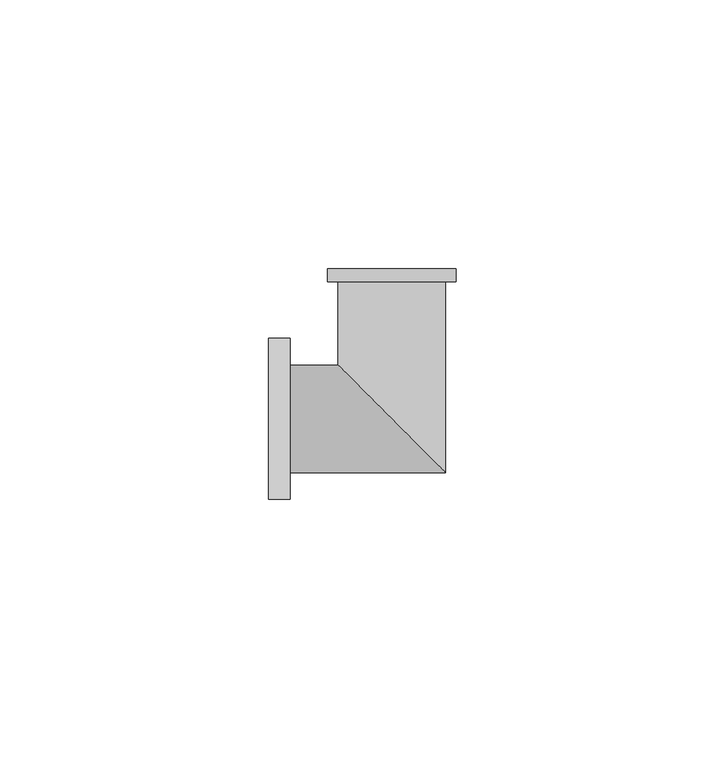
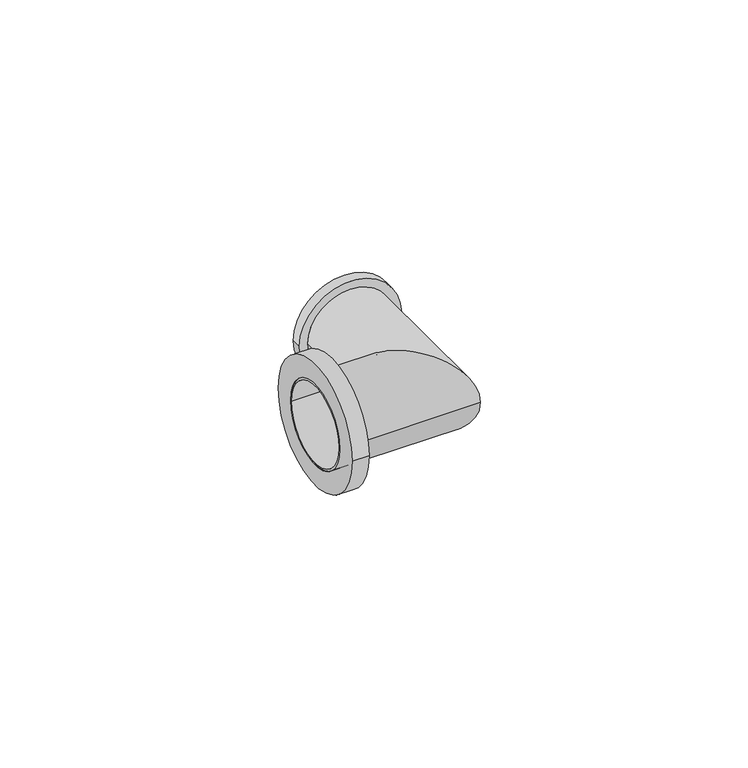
"""IFC4 building model written with IfcOpenShell, lengths in millimetres: pipe fitting geometry, БИР ПЕКС_НПР_Угольник_Резьба_Внутренняя : Угольник с внутренней резьбой."""

from ifc_helpers import new_model, si_unit, point, frame, origin, origin_2d, place, context, project, spatial, polyline, circle_curve, ellipse_curve, trimmed, segment, composite_curve, outline, extrude, source, transform, mapped, element, save
from ifc_brep_helpers import plane_surface, cylinder_surface, revolved_surface, advanced_brep


def pipe_fitting_5774e762(model_context):
    return source(origin(), model_context, "Body", "SolidModel", [
        extrude(outline(composite_curve([segment(trimmed(circle_curve(origin_2d(), 15.0), [point((-15.0, 0.0))], [point((15.0, 0.0))], False, "CARTESIAN"), True, "CONTINUOUS"), segment(trimmed(circle_curve(origin_2d(), 15.0), [point((15.0, 0.0))], [point((-15.0, 0.0))], False, "CARTESIAN"), True, "CONTINUOUS")], self_intersect=False), holes=[composite_curve([segment(trimmed(circle_curve(origin_2d(), 10.0), [point((-10.0, 0.0))], [point((10.0, 0.0))], True, "CARTESIAN"), True, "CONTINUOUS"), segment(trimmed(circle_curve(origin_2d(), 10.0), [point((10.0, 0.0))], [point((-10.0, 0.0))], True, "CARTESIAN"), True, "CONTINUOUS")], self_intersect=False)]), frame((-23.0, 0.0, 0.0), z_axis=(1.0, 0.0, 0.0), x_axis=(0.0, 1.0, 0.0)), (0.0, 0.0, 1.0), 4.0),
        advanced_brep(
        [(-23.0, -10.0, 0.0), (-23.0, 10.0, 0.0), (-23.0, -9.5, 0.0), (-23.0, 9.5, 0.0), (10.0, -10.0, 0.0), (-10.0, 10.0, 0.0), (-12.0, 28.0, 0.0), (12.0, 28.0, 0.0), (9.5, 28.0, 0.0), (-9.5, 28.0, 0.0), (10.0, 25.5, 0.0), (-10.0, 25.5, 0.0), (-12.0, 25.5, 0.0), (12.0, 25.5, 0.0), (9.5, -9.5, 0.0), (-9.5, 9.5, 0.0)],
        [
            (0, 1, circle_curve(frame((-23.0, 0.0, 0.0), z_axis=(-1.0, 0.0, 0.0), x_axis=(0.0, 1.0, 0.0)), 10.0)),
            (1, 0, circle_curve(frame((-23.0, 0.0, 0.0), z_axis=(-1.0, 0.0, 0.0), x_axis=(0.0, 1.0, 0.0)), 10.0)),
            (2, 3, circle_curve(frame((-23.0, 0.0, 0.0), z_axis=(1.0, 0.0, 0.0), x_axis=(0.0, 1.0, 0.0)), 9.5)),
            (3, 2, circle_curve(frame((-23.0, 0.0, 0.0), z_axis=(1.0, 0.0, 0.0), x_axis=(0.0, 1.0, 0.0)), 9.5)),
            (0, 4),
            (4, 5, ellipse_curve(frame((0.0, 0.0, 0.0), z_axis=(-0.7071067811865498, -0.7071067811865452, 0.0), x_axis=(-0.7071067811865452, 0.7071067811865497, 0.0)), 14.1421356, 10.0)),
            (5, 1),
            (5, 4, ellipse_curve(frame((0.0, 0.0, 0.0), z_axis=(-0.7071067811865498, -0.7071067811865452, 0.0), x_axis=(-0.7071067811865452, 0.7071067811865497, 0.0)), 14.1421356, 10.0)),
            (6, 7, circle_curve(frame((0.0, 28.0, 0.0), z_axis=(0.0, 1.0, 0.0), x_axis=(1.0, 0.0, 0.0)), 12.0)),
            (7, 6, circle_curve(frame((0.0, 28.0, 0.0), z_axis=(0.0, 1.0, 0.0), x_axis=(1.0, 0.0, 0.0)), 12.0)),
            (8, 9, circle_curve(frame((0.0, 28.0, 0.0), z_axis=(0.0, -1.0, 0.0), x_axis=(-1.0, 0.0, 0.0)), 9.5)),
            (9, 8, circle_curve(frame((0.0, 28.0, 0.0), z_axis=(0.0, -1.0, 0.0), x_axis=(-1.0, 0.0, 0.0)), 9.5)),
            (4, 10),
            (10, 11, circle_curve(frame((0.0, 25.5, 0.0), z_axis=(0.0, -1.0, 0.0), x_axis=(-1.0, 0.0, 0.0)), 10.0)),
            (11, 5),
            (11, 10, circle_curve(frame((0.0, 25.5, 0.0), z_axis=(0.0, -1.0, 0.0), x_axis=(-1.0, 0.0, 0.0)), 10.0)),
            (12, 13, circle_curve(frame((0.0, 25.5, 0.0), z_axis=(0.0, -1.0, 0.0), x_axis=(1.0, 0.0, 0.0)), 12.0)),
            (13, 12, circle_curve(frame((0.0, 25.5, 0.0), z_axis=(0.0, -1.0, 0.0), x_axis=(1.0, 0.0, 0.0)), 12.0)),
            (12, 6),
            (7, 13),
            (2, 14),
            (14, 15, ellipse_curve(frame((0.0, 0.0, 0.0), z_axis=(0.7071067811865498, 0.7071067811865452, 0.0), x_axis=(0.7071067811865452, -0.7071067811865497, 0.0)), 13.4350288, 9.5)),
            (15, 3),
            (15, 14, ellipse_curve(frame((0.0, 0.0, 0.0), z_axis=(0.7071067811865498, 0.7071067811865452, 0.0), x_axis=(0.7071067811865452, -0.7071067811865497, 0.0)), 13.4350288, 9.5)),
            (9, 15),
            (14, 8),
        ],
        [
            plane_surface(frame((-23.0, 0.0, 0.0), z_axis=(-1.0, 0.0, 0.0), x_axis=(0.0, 0.0, 1.0))),
            cylinder_surface(frame((-23.0, 0.0, 0.0), z_axis=(-1.0, 0.0, 0.0), x_axis=(0.0, 1.0, 0.0)), 10.0),
            plane_surface(frame((0.0, 28.0, 0.0), z_axis=(0.0, 1.0, 0.0), x_axis=(0.0, 0.0, 1.0))),
            cylinder_surface(frame((0.0, 0.0, 0.0), z_axis=(0.0, -1.0, 0.0), x_axis=(-1.0, 0.0, 0.0)), 10.0),
            plane_surface(frame((12.0, 25.5, 0.0), z_axis=(0.0, -1.0, 0.0), x_axis=(0.0, 0.0, 1.0))),
            cylinder_surface(frame((0.0, 28.0, 0.0), z_axis=(0.0, -1.0, 0.0), x_axis=(1.0, 0.0, 0.0)), 12.0),
            revolved_surface(polyline([(9.5, 9.5, 0.0), (-23.0, 9.5, 0.0)]), (-23.0, 0.0, 0.0), (1.0, 0.0, 0.0)),
            revolved_surface(polyline([(-9.5, 28.0, 0.0), (-9.5, -9.5, 0.0)]), (0.0, 0.0, 0.0), (0.0, 1.0, 0.0)),
        ],
        [
            (0, [[1, 2], [3, 4]]),
            (1, [[-1, 5, 6, 7]]),
            (1, [[-2, -7, 8, -5]]),
            (2, [[9, 10], [11, 12]]),
            (3, [[-6, 13, 14, 15]]),
            (3, [[-8, -15, 16, -13]]),
            (4, [[17, 18], [-14, -16]]),
            (5, [[-17, 19, -10, 20]]),
            (5, [[-18, -20, -9, -19]]),
            (6, [[-3, 21, 22, 23]]),
            (6, [[-4, -23, 24, -21]]),
            (7, [[-12, 25, -22, 26]]),
            (7, [[-11, -26, -24, -25]]),
        ],
    ),
    ])


if __name__ == "__main__":
    model = new_model("IFC4")
    model_context = context("Model", 3, world=origin())
    ifc_project = project(units=[si_unit("LENGTHUNIT", "METRE", prefix="MILLI")], contexts=[model_context])
    site = spatial("IfcSite", under=ifc_project)
    building = spatial("IfcBuilding", under=site)
    placement = place(None, origin())
    pipe_fitting_shape = pipe_fitting_5774e762(model_context)
    element("IfcPipeFitting", 1, ObjectType="БИР ПЕКС_НПР_Угольник_Резьба_Внутренняя : Угольник с внутренней резьбой", at=placement, inside=building, context=model_context, shape_type="MappedRepresentation", body=[
        mapped(pipe_fitting_shape, transform((0.0, 0.0, 0.0), x_axis=(1.0, 0.0, 0.0), y_axis=(0.0, 1.0, 0.0), z_axis=(0.0, 0.0, 1.0))),
    ])
    save(model, "model.ifc")
